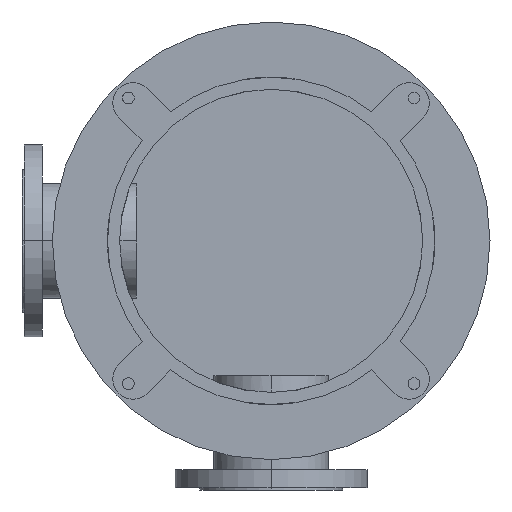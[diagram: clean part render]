
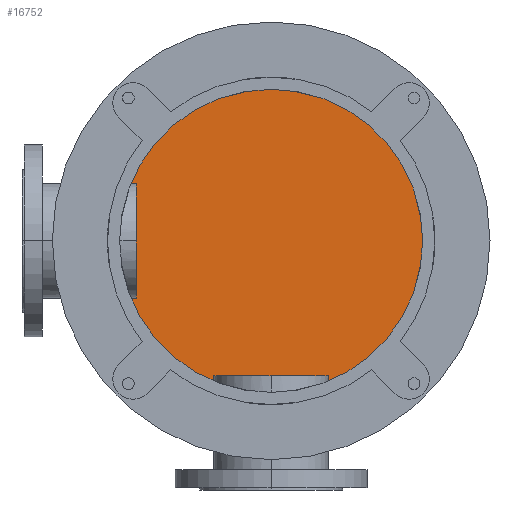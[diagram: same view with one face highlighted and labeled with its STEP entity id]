
A CAD part, front view. The second image highlights one B-rep face of the part: STEP entity #16752.
In plain terms, the highlighted planar face has unit normal (0, -1, 0).
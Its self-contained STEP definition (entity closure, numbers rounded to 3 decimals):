
#2861=CARTESIAN_POINT('',(0.,500.,0.));
#2862=DIRECTION('',(0.,-1.,0.));
#2863=DIRECTION('',(0.,0.,-1.));
#2864=AXIS2_PLACEMENT_3D('',#2861,#2862,#2863);
#3033=CARTESIAN_POINT('',(0.,500.,0.));
#3034=DIRECTION('',(0.,-1.,0.));
#3035=DIRECTION('',(0.,0.,1.));
#3036=AXIS2_PLACEMENT_3D('',#3033,#3034,#3035);
#8626=CARTESIAN_POINT('',(0.,500.,240.));
#8627=CARTESIAN_POINT('',(0.,500.,-240.));
#8628=VERTEX_POINT('',#8626);
#8629=VERTEX_POINT('',#8627);
#16743=CARTESIAN_POINT('',(0.,500.,0.));
#16744=DIRECTION('',(0.,1.,0.));
#16745=DIRECTION('',(0.,0.,-1.));
#16746=AXIS2_PLACEMENT_3D('',#16743,#16744,#16745);
#16747=PLANE('',#16746);
#16748=ORIENTED_EDGE('',*,*,#13784,.F.);
#16749=ORIENTED_EDGE('',*,*,#13644,.F.);
#16750=EDGE_LOOP('',(#16748,#16749));
#16751=FACE_OUTER_BOUND('',#16750,.F.);
#16752=ADVANCED_FACE('',(#16751),#16747,.F.);
#2865=CIRCLE('',#2864,240.);
#3037=CIRCLE('',#3036,240.);
#13644=EDGE_CURVE('',#8629,#8628,#2865,.T.);
#13784=EDGE_CURVE('',#8628,#8629,#3037,.T.);
